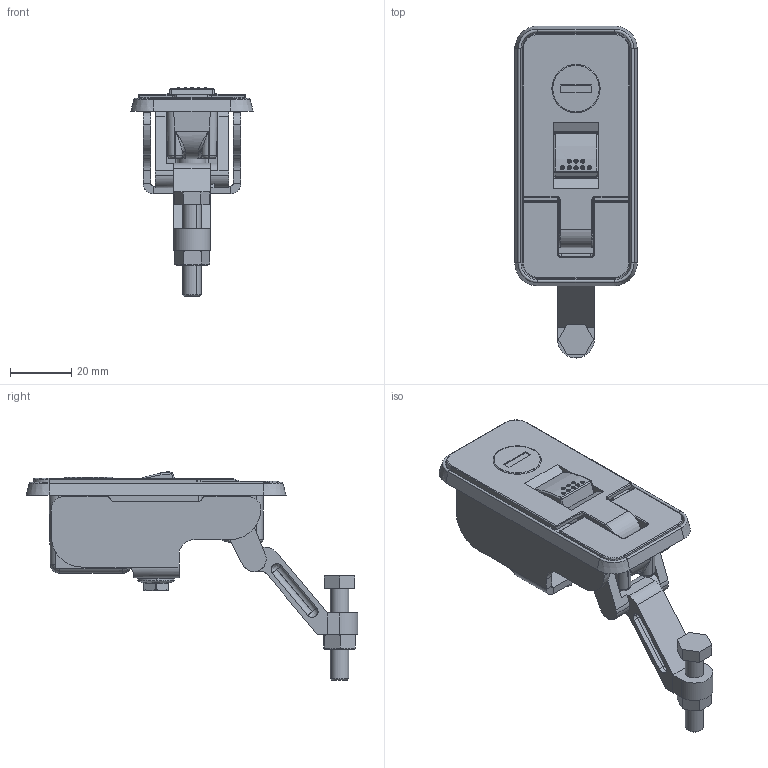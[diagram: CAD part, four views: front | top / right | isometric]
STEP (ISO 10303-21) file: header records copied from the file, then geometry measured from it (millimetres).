
FILE_DESCRIPTION (( 'STEP AP214' ), '1' );
FILE_NAME ('A-1446С.STEP', '2026-07-15T09:26:19', ( '' ), ( '' ), 'SwSTEP 2.0', 'SolidWorks 2020', '' );
FILE_SCHEMA (( 'AUTOMOTIVE_DESIGN' ));
Length unit declared in the file: millimetre
Products named in the file (15): ^A-1446 鬥(2)_A-1446 鬥; 葩璃 (4) ^A-1446 鬥(2)_A-1446 鬥; 葩璃 (10) ^A-1446 鬥(2)_A-1446 鬥; 葩璃 (9) ^A-1446 鬥(2)_A-1446 鬥; 葩璃 (8) ^A-1446 鬥(2)_A-1446 鬥; ^_A-1446 鬥(2)_A-1446 鬥; 葩璃 (5) ^A-1446 鬥(2)_A-1446 鬥; 葩璃 (3) ^A-1446 鬥(2)_A-1446 鬥; A-1446С; 葩璃 (2) ^A-1446 鬥(2)_A-1446 鬥; A-1446 鬥(2)^A-1446 鬥; 葩璃 (6) ^A-1446 鬥(2)_A-1446 鬥; 葩璃 (7) ^A-1446 鬥(2)_A-1446 鬥; 葩璃 (2) ^_A-1446 鬥(2)_A-1446 鬥
Assembly tree (14 placements, depth 4):
  A-1446С
    A-1446 鬥(2)^A-1446 鬥
      ^A-1446 鬥(2)_A-1446 鬥
        ^_A-1446 鬥(2)_A-1446 鬥
        葩璃 (2) ^_A-1446 鬥(2)_A-1446 鬥
      ^A-1446 鬥(2)_A-1446 鬥
      葩璃 (2) ^A-1446 鬥(2)_A-1446 鬥
      葩璃 (3) ^A-1446 鬥(2)_A-1446 鬥
      葩璃 (4) ^A-1446 鬥(2)_A-1446 鬥
      葩璃 (5) ^A-1446 鬥(2)_A-1446 鬥
      葩璃 (6) ^A-1446 鬥(2)_A-1446 鬥
      葩璃 (7) ^A-1446 鬥(2)_A-1446 鬥
      葩璃 (8) ^A-1446 鬥(2)_A-1446 鬥
      葩璃 (9) ^A-1446 鬥(2)_A-1446 鬥
      葩璃 (10) ^A-1446 鬥(2)_A-1446 鬥
Bounding box: 40 x 108.5 x 68.33 mm (x, y, z)
Volume: 35041.3 mm3; surface area: 39375.4 mm2
Topology: 11 solids, 16 shells, 1291 faces, 3113 edges, 1876 vertices
Faces by surface type: plane 391, cylinder 371, bspline 237, sphere 156, torus 83, cone 53
Entity records: 55905 total; most frequent: CARTESIAN_POINT 30220, ORIENTED_EDGE 6214, DIRECTION 3783, EDGE_CURVE 3113, VERTEX_POINT 1876, B_SPLINE_CURVE_WITH_KNOTS 1630, AXIS2_PLACEMENT_3D 1521, EDGE_LOOP 1331
